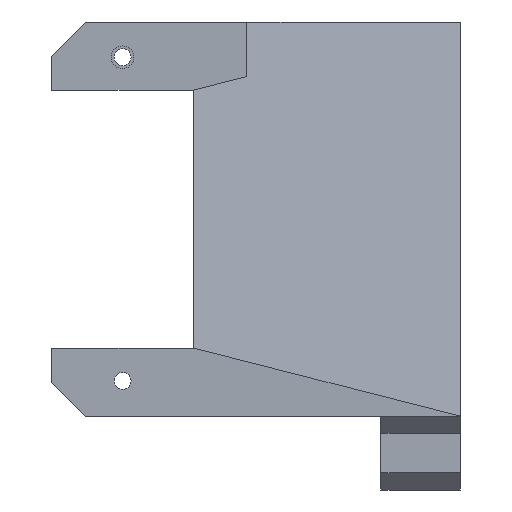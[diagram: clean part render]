
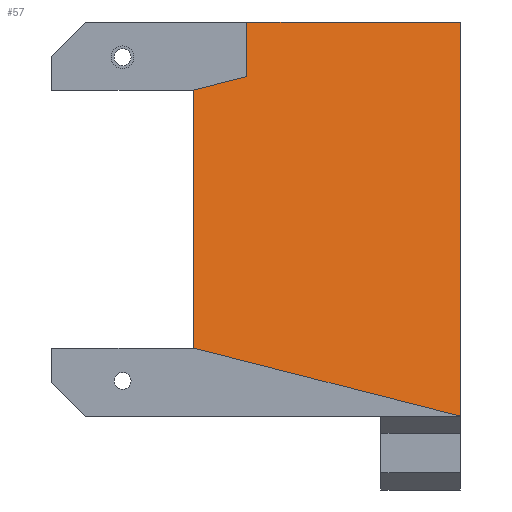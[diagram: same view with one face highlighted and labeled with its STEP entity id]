
A CAD part, left-side view. The second image highlights one B-rep face of the part: STEP entity #57.
In plain terms, the highlighted planar face has unit normal (-0.92, -0.392, 0).
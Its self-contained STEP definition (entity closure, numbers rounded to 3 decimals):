
#57 = ADVANCED_FACE ( 'NONE', ( #1587 ), #1570, .T. ) ;
#67 = VECTOR ( 'NONE', #2040, 1000. ) ;
#99 = DIRECTION ( 'NONE',  ( 0., 0., -1. ) ) ;
#112 = ORIENTED_EDGE ( 'NONE', *, *, #497, .T. ) ;
#163 = CARTESIAN_POINT ( 'NONE',  ( -5., -24.25, -14.35 ) ) ;
#170 = VERTEX_POINT ( 'NONE', #768 ) ;
#209 = CARTESIAN_POINT ( 'NONE',  ( 0., -36., 17.35 ) ) ;
#288 = DIRECTION ( 'NONE',  ( -0.381, 0.896, -0.229 ) ) ;
#312 = VERTEX_POINT ( 'NONE', #1205 ) ;
#410 = DIRECTION ( 'NONE',  ( -0.92, -0.392, 0. ) ) ;
#437 = EDGE_CURVE ( 'NONE', #170, #1037, #555, .T. ) ;
#449 = ORIENTED_EDGE ( 'NONE', *, *, #577, .F. ) ;
#459 = CARTESIAN_POINT ( 'NONE',  ( -5., -24.25, 14.35 ) ) ;
#475 = VERTEX_POINT ( 'NONE', #1124 ) ;
#484 = EDGE_CURVE ( 'NONE', #312, #921, #1603, .T. ) ;
#497 = EDGE_CURVE ( 'NONE', #964, #921, #983, .T. ) ;
#521 = B_SPLINE_CURVE_WITH_KNOTS ( 'NONE', 3,
 ( #1705, #1051, #1215, #2023 ),
 .UNSPECIFIED., .F., .F.,
 ( 4, 4 ),
 ( 0., 1. ),
 .UNSPECIFIED. ) ;
#555 = LINE ( 'NONE', #1113, #1452 ) ;
#577 = EDGE_CURVE ( 'NONE', #1037, #1424, #1394, .T. ) ;
#580 = VECTOR ( 'NONE', #1264, 1000. ) ;
#607 = CARTESIAN_POINT ( 'NONE',  ( -10., -12.5, -6.85 ) ) ;
#634 = EDGE_LOOP ( 'NONE', ( #1332, #449, #1902, #985, #112, #1285, #856, #1170 ) ) ;
#647 = LINE ( 'NONE', #163, #1990 ) ;
#674 = DIRECTION ( 'NONE',  ( 0., 0., -1. ) ) ;
#765 = VECTOR ( 'NONE', #951, 1000. ) ;
#768 = CARTESIAN_POINT ( 'NONE',  ( -8., -17.2, 17.35 ) ) ;
#784 = VECTOR ( 'NONE', #674, 1000. ) ;
#793 = CARTESIAN_POINT ( 'NONE',  ( -10., -12.5, -11.35 ) ) ;
#856 = ORIENTED_EDGE ( 'NONE', *, *, #1681, .F. ) ;
#907 = LINE ( 'NONE', #1317, #784 ) ;
#921 = VERTEX_POINT ( 'NONE', #992 ) ;
#951 = DIRECTION ( 'NONE',  ( 0., 0., 1. ) ) ;
#964 = VERTEX_POINT ( 'NONE', #1500 ) ;
#983 = LINE ( 'NONE', #459, #1826 ) ;
#985 = ORIENTED_EDGE ( 'NONE', *, *, #1016, .T. ) ;
#992 = CARTESIAN_POINT ( 'NONE',  ( -10., -12.5, 11.35 ) ) ;
#1016 = EDGE_CURVE ( 'NONE', #170, #964, #907, .T. ) ;
#1037 = VERTEX_POINT ( 'NONE', #209 ) ;
#1051 = CARTESIAN_POINT ( 'NONE',  ( 0., -36., 1.783 ) ) ;
#1084 = CARTESIAN_POINT ( 'NONE',  ( 0., -36., 17.35 ) ) ;
#1113 = CARTESIAN_POINT ( 'NONE',  ( 0.92, -38.162, 17.35 ) ) ;
#1124 = CARTESIAN_POINT ( 'NONE',  ( 0., -36., -17.35 ) ) ;
#1170 = ORIENTED_EDGE ( 'NONE', *, *, #1808, .T. ) ;
#1205 = CARTESIAN_POINT ( 'NONE',  ( -10., -12.5, -6.85 ) ) ;
#1215 = CARTESIAN_POINT ( 'NONE',  ( 0., -36., -7.783 ) ) ;
#1264 = DIRECTION ( 'NONE',  ( 0., 0., 1. ) ) ;
#1277 = LINE ( 'NONE', #793, #765 ) ;
#1285 = ORIENTED_EDGE ( 'NONE', *, *, #484, .F. ) ;
#1291 = AXIS2_PLACEMENT_3D ( 'NONE', #1404, #410, #99 ) ;
#1317 = CARTESIAN_POINT ( 'NONE',  ( -8., -17.2, 17.35 ) ) ;
#1332 = ORIENTED_EDGE ( 'NONE', *, *, #2039, .F. ) ;
#1394 = LINE ( 'NONE', #1084, #67 ) ;
#1399 = VERTEX_POINT ( 'NONE', #1511 ) ;
#1404 = CARTESIAN_POINT ( 'NONE',  ( -10., -12.5, 11.35 ) ) ;
#1424 = VERTEX_POINT ( 'NONE', #1520 ) ;
#1452 = VECTOR ( 'NONE', #2091, 1000. ) ;
#1500 = CARTESIAN_POINT ( 'NONE',  ( -8., -17.2, 12.55 ) ) ;
#1511 = CARTESIAN_POINT ( 'NONE',  ( -10., -12.5, -11.35 ) ) ;
#1520 = CARTESIAN_POINT ( 'NONE',  ( 0., -36., 11.35 ) ) ;
#1570 = PLANE ( 'NONE',  #1291 ) ;
#1587 = FACE_OUTER_BOUND ( 'NONE', #634, .T. ) ;
#1603 = LINE ( 'NONE', #607, #580 ) ;
#1681 = EDGE_CURVE ( 'NONE', #1399, #312, #1277, .T. ) ;
#1705 = CARTESIAN_POINT ( 'NONE',  ( 0., -36., 11.35 ) ) ;
#1808 = EDGE_CURVE ( 'NONE', #1399, #475, #647, .T. ) ;
#1812 = DIRECTION ( 'NONE',  ( 0.381, -0.896, -0.229 ) ) ;
#1826 = VECTOR ( 'NONE', #288, 1000. ) ;
#1902 = ORIENTED_EDGE ( 'NONE', *, *, #437, .F. ) ;
#1990 = VECTOR ( 'NONE', #1812, 1000. ) ;
#2023 = CARTESIAN_POINT ( 'NONE',  ( 0., -36., -17.35 ) ) ;
#2039 = EDGE_CURVE ( 'NONE', #1424, #475, #521, .T. ) ;
#2040 = DIRECTION ( 'NONE',  ( 0., 0., -1. ) ) ;
#2091 = DIRECTION ( 'NONE',  ( 0.392, -0.92, 0. ) ) ;
